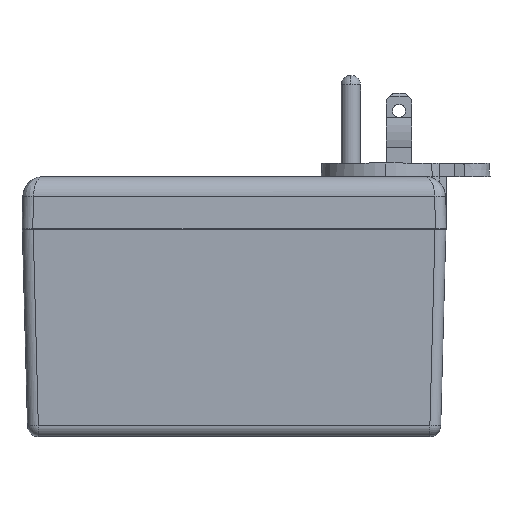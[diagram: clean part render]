
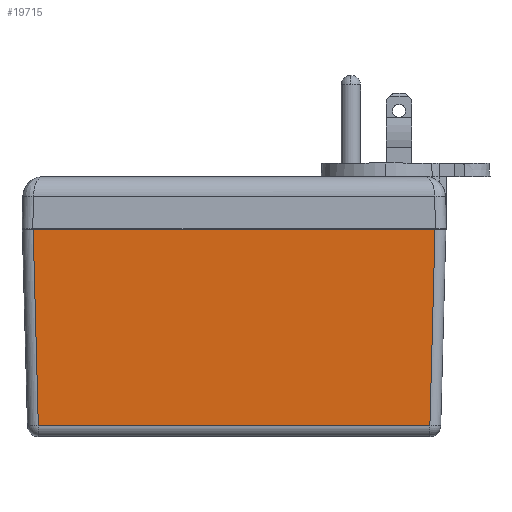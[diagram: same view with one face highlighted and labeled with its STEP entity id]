
A CAD part, top view. The second image highlights one B-rep face of the part: STEP entity #19715.
In plain terms, the highlighted planar face has unit normal (0, -0.026, 1).
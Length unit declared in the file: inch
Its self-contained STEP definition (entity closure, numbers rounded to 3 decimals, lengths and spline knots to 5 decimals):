
#2045 = VERTEX_POINT ( 'NONE', #8355 ) ;
#2078 = VERTEX_POINT ( 'NONE', #8311 ) ;
#2167 = VERTEX_POINT ( 'NONE', #8183 ) ;
#2223 = VERTEX_POINT ( 'NONE', #8116 ) ;
#5470 = DIRECTION ( 'NONE',  ( 1., 0., 0. ) ) ;
#5471 = CARTESIAN_POINT ( 'NONE',  ( -2.0545, 0., 1.116 ) ) ;
#5473 = DIRECTION ( 'NONE',  ( 0.026, -0.999, -0.026 ) ) ;
#5474 = CARTESIAN_POINT ( 'NONE',  ( -1.94961, 0.00274, 1.11607 ) ) ;
#5476 = DIRECTION ( 'NONE',  ( 0.026, 0.999, 0.026 ) ) ;
#5477 = CARTESIAN_POINT ( 'NONE',  ( 1.94679, -0.10471, 1.11326 ) ) ;
#5521 = DIRECTION ( 'NONE',  ( 1., 0., 0. ) ) ;
#5530 = CARTESIAN_POINT ( 'NONE',  ( -2.0545, -1.90275, 1.06617 ) ) ;
#8116 = CARTESIAN_POINT ( 'NONE',  ( -1.89971, -1.90275, 1.06617 ) ) ;
#8183 = CARTESIAN_POINT ( 'NONE',  ( -1.94954, 0., 1.116 ) ) ;
#8311 = CARTESIAN_POINT ( 'NONE',  ( 1.94954, 0., 1.116 ) ) ;
#8355 = CARTESIAN_POINT ( 'NONE',  ( 1.89971, -1.90275, 1.06617 ) ) ;
#9887 = DIRECTION ( 'NONE',  ( 0., -1., -0.026 ) ) ;
#9892 = DIRECTION ( 'NONE',  ( 0., -0.026, 1. ) ) ;
#9904 = PLANE ( 'NONE',  #15954 ) ;
#9909 = CARTESIAN_POINT ( 'NONE',  ( -2.0545, 0., 1.116 ) ) ;
#12922 = VECTOR ( 'NONE', #5521, 39.37008 ) ;
#12925 = LINE ( 'NONE', #5530, #12922 ) ;
#12949 = LINE ( 'NONE', #5477, #12950 ) ;
#12950 = VECTOR ( 'NONE', #5476, 39.37008 ) ;
#12951 = LINE ( 'NONE', #5474, #12952 ) ;
#12952 = VECTOR ( 'NONE', #5473, 39.37008 ) ;
#12953 = LINE ( 'NONE', #5471, #12954 ) ;
#12954 = VECTOR ( 'NONE', #5470, 39.37008 ) ;
#13765 = FACE_OUTER_BOUND ( 'NONE', #14195, .T. ) ;
#14195 = EDGE_LOOP ( 'NONE', ( #18011, #18012, #18013, #18014 ) ) ;
#15954 = AXIS2_PLACEMENT_3D ( 'NONE', #9909, #9892, #9887 ) ;
#18011 = ORIENTED_EDGE ( 'NONE', *, *, #18513, .T. ) ;
#18012 = ORIENTED_EDGE ( 'NONE', *, *, #18527, .T. ) ;
#18013 = ORIENTED_EDGE ( 'NONE', *, *, #18529, .F. ) ;
#18014 = ORIENTED_EDGE ( 'NONE', *, *, #18528, .T. ) ;
#18513 = EDGE_CURVE ( 'NONE', #2223, #2045, #12925, .T. ) ;
#18527 = EDGE_CURVE ( 'NONE', #2045, #2078, #12949, .T. ) ;
#18528 = EDGE_CURVE ( 'NONE', #2167, #2223, #12951, .T. ) ;
#18529 = EDGE_CURVE ( 'NONE', #2167, #2078, #12953, .T. ) ;
#19715 = ADVANCED_FACE ( 'NONE', ( #13765 ), #9904, .T. ) ;
